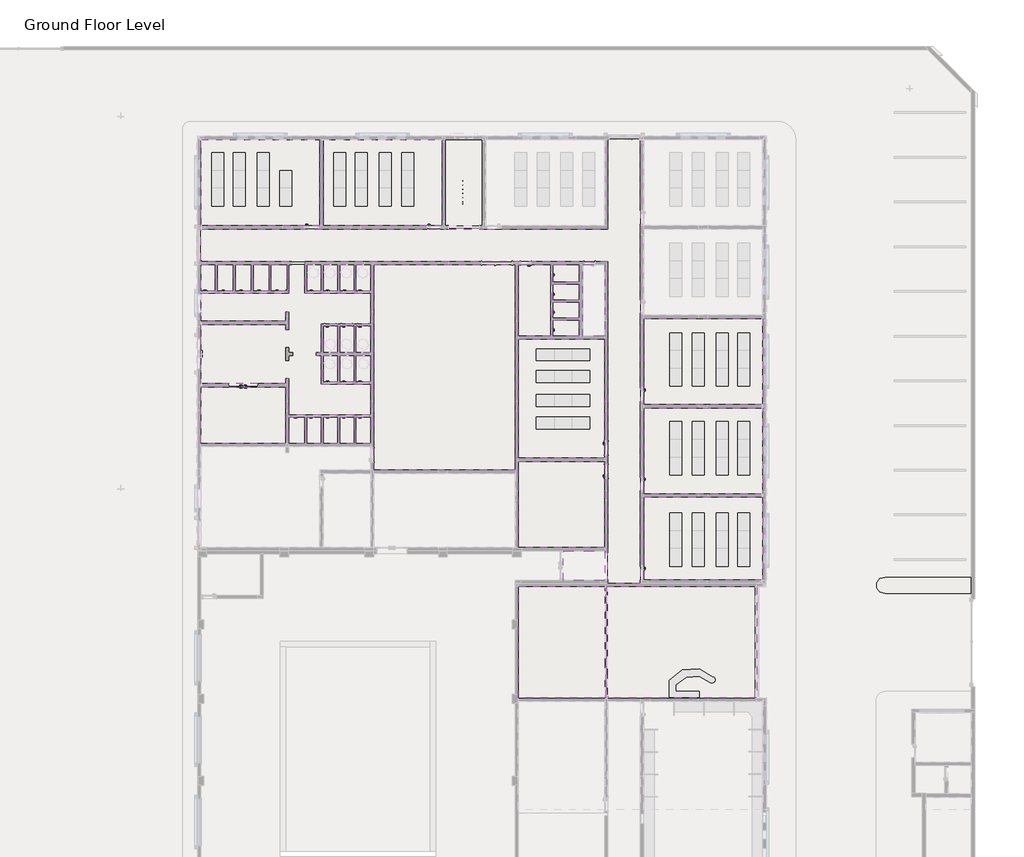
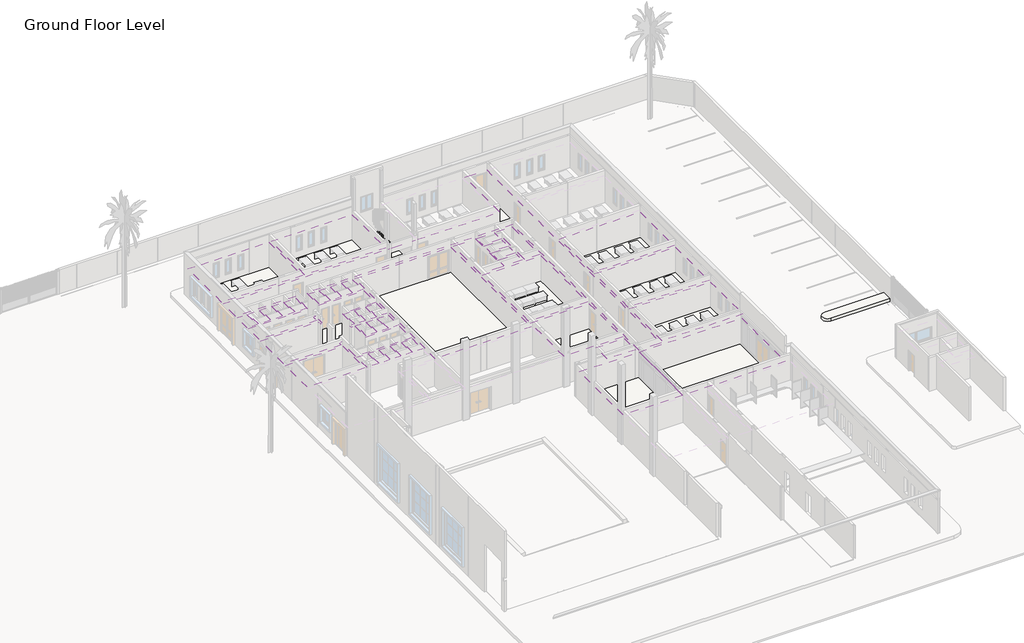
# One storey, part 12 of 23: 39 coverings, 14 slabs.
"""IFC4 building model written with IfcOpenShell, lengths in millimetres."""

import ifcopenshell
import ifcopenshell.guid

model = None  # the IFC model being written
_history = None  # IfcOwnerHistory: only IFC2X3 demands one
_inside = {}  # id of a spatial element -> (the spatial element, [elements in it])
_under = {}  # id of a project, library or spatial element -> (it, [spatial elements below it])
_declared = {}  # id of a project -> (the project, [libraries it declares])
_typed = {}  # id of a type object -> (the type object, [elements of that type])
_made_of = {}  # id of a material, layer set ... -> (it, [elements and type objects made of it])


def new_model(schema):
    """Start an empty IFC model of exactly this schema.

    Asked for "IFC4X3", IfcOpenShell would pick the latest addendum, in which some entities
    have other attributes; the version numbers below select the first issue.
    IFC2X3 requires an IfcOwnerHistory on every rooted entity: one is made here for all.
    """
    global model, _history
    if schema == "IFC4X3":
        model = ifcopenshell.file(schema_version=(4, 3, 0, 0))
    else:
        model = ifcopenshell.file(schema=schema)
    _inside.clear()
    _under.clear()
    _declared.clear()
    _typed.clear()
    _made_of.clear()
    _history = None
    if model.schema == "IFC2X3":
        org = make("IfcOrganization", Name="unknown")
        user = make(
            "IfcPersonAndOrganization",
            ThePerson=make("IfcPerson", FamilyName="unknown"),
            TheOrganization=org,
        )
        app = make(
            "IfcApplication",
            ApplicationDeveloper=org,
            Version="unknown",
            ApplicationFullName="unknown",
            ApplicationIdentifier="unknown",
        )
        _history = make(
            "IfcOwnerHistory",
            OwningUser=user,
            OwningApplication=app,
            ChangeAction="ADDED",
            CreationDate=0,
        )
    return model


def make(cls, **values):
    """One entity of the class cls with the attributes given. An attribute that is None is left unset."""
    return model.create_entity(
        cls, **{name: value for name, value in values.items() if value is not None}
    )


def rooted(cls, **values):
    """An entity with a GlobalId (a new one), such as an element, a storey or a relation."""
    return make(cls, GlobalId=ifcopenshell.guid.new(), OwnerHistory=_history, **values)


def si_unit(unit_type, name, prefix=None):
    """IfcSIUnit, for example si_unit("LENGTHUNIT", "METRE", prefix="MILLI")."""
    return make("IfcSIUnit", UnitType=unit_type, Prefix=prefix, Name=name)


def assignment(units):
    """IfcUnitAssignment: the units of a project."""
    return None if units is None else make("IfcUnitAssignment", Units=units)


def point(xyz):
    """IfcCartesianPoint."""
    return None if xyz is None else make("IfcCartesianPoint", Coordinates=xyz)


def direction(xyz):
    """IfcDirection."""
    return None if xyz is None else make("IfcDirection", DirectionRatios=xyz)


def frame(location, z_axis=None, x_axis=None):
    """IfcAxis2Placement3D, a coordinate frame: its origin and axes. An axis left out is left unset."""
    return make(
        "IfcAxis2Placement3D",
        Location=point(location),
        Axis=direction(z_axis),
        RefDirection=direction(x_axis),
    )


def frame_2d(location, x_axis=None):
    """IfcAxis2Placement2D, a coordinate frame in the plane: its origin and x axis."""
    return make(
        "IfcAxis2Placement2D", Location=point(location), RefDirection=direction(x_axis)
    )


def origin():
    """The frame at (0, 0, 0) with its axes left unset."""
    return frame((0.0, 0.0, 0.0))


def place(relative_to, where):
    """IfcLocalPlacement: puts the frame where relative to a parent placement (None: the world)."""
    return make(
        "IfcLocalPlacement", PlacementRelTo=relative_to, RelativePlacement=where
    )


def context(
    kind, dimensions, precision=None, world=None, true_north=None, identifier=None
):
    """IfcGeometricRepresentationContext, for example the 3D "Model" context."""
    return make(
        "IfcGeometricRepresentationContext",
        ContextIdentifier=identifier,
        ContextType=kind,
        CoordinateSpaceDimension=dimensions,
        Precision=precision,
        WorldCoordinateSystem=world,
        TrueNorth=true_north,
    )


def project(units=None, contexts=None):
    """IfcProject with its units and contexts."""
    return rooted(
        "IfcProject",
        Name="project",
        RepresentationContexts=contexts,
        UnitsInContext=assignment(units),
    )


def spatial(cls, under=None, at=None, **own):
    """A site, building, storey or space (cls), placed at a placement, below another one or the project."""
    s = rooted(cls, ObjectPlacement=at, **own)
    if under is not None:
        _under.setdefault(under.id(), (under, []))[1].append(s)
    return s


def polyline(points):
    """IfcPolyline through the points."""
    return make("IfcPolyline", Points=[point(p) for p in points])


def circle_curve(where, radius):
    """IfcCircle in the frame where."""
    return make("IfcCircle", Position=where, Radius=radius)


def trimmed(basis, trim1, trim2, sense, master):
    """IfcTrimmedCurve: the piece of a basis curve between two trims."""
    return make(
        "IfcTrimmedCurve",
        BasisCurve=basis,
        Trim1=trim1,
        Trim2=trim2,
        SenseAgreement=sense,
        MasterRepresentation=master,
    )


def segment(curve, same_sense, transition):
    """IfcCompositeCurveSegment."""
    return make(
        "IfcCompositeCurveSegment",
        Transition=transition,
        SameSense=same_sense,
        ParentCurve=curve,
    )


def composite_curve(segments, self_intersect=None):
    """IfcCompositeCurve: segments joined end to end."""
    return make("IfcCompositeCurve", Segments=segments, SelfIntersect=self_intersect)


def outline(outer, holes=None, kind="AREA"):
    """IfcArbitraryClosedProfileDef: a profile drawn as a closed curve; with holes, ...WithVoids."""
    if holes is None:
        return make("IfcArbitraryClosedProfileDef", ProfileType=kind, OuterCurve=outer)
    return make(
        "IfcArbitraryProfileDefWithVoids",
        ProfileType=kind,
        OuterCurve=outer,
        InnerCurves=holes,
    )


def extrude(swept, where, along, depth):
    """IfcExtrudedAreaSolid: the profile swept, set in the frame where, extruded along a direction by depth."""
    return make(
        "IfcExtrudedAreaSolid",
        SweptArea=swept,
        Position=where,
        ExtrudedDirection=direction(along),
        Depth=depth,
    )


def faces_of(points, faces, orient=None, outer=None):
    """IfcFace entities. A face is a list of loops; a loop is a list of indices into points, from 0.

    orient and outer hold one flag for each loop. By default every Orientation is true, the
    first loop of a face is its IfcFaceOuterBound and the others are IfcFaceBound.
    """
    made = []
    for i, loops in enumerate(faces):
        bounds = []
        for j, loop in enumerate(loops):
            is_outer = j == 0 if outer is None else outer[i][j]
            bounds.append(
                make(
                    "IfcFaceOuterBound" if is_outer else "IfcFaceBound",
                    Bound=make("IfcPolyLoop", Polygon=[points[k] for k in loop]),
                    Orientation=True if orient is None else orient[i][j],
                )
            )
        made.append(make("IfcFace", Bounds=bounds))
    return made


def faceted_brep(points, faces, orient=None, outer=None, voids=None):
    """IfcFacetedBrep: a solid bounded by flat faces; with voids (closed shells), ...WithVoids."""
    shared = [point(p) for p in points]
    hull = make("IfcClosedShell", CfsFaces=faces_of(shared, faces, orient, outer))
    if voids is None:
        return make("IfcFacetedBrep", Outer=hull)
    return make(
        "IfcFacetedBrepWithVoids",
        Outer=hull,
        Voids=[
            make(cls, CfsFaces=faces_of(shared, fs, o, b)) for cls, fs, o, b in voids
        ],
    )


def shape(context_of_items, identifier, shape_type, items):
    """IfcShapeRepresentation: the items that make up one representation, for example the "Body"."""
    return make(
        "IfcShapeRepresentation",
        ContextOfItems=context_of_items,
        RepresentationIdentifier=identifier,
        RepresentationType=shape_type,
        Items=items,
    )


def made_of(thing, what):
    """Note that an element or type object is made of a material, layer set ...; save() writes the relation."""
    if what is not None:
        _made_of.setdefault(what.id(), (what, []))[1].append(thing)
    return thing


def element(
    cls,
    number,
    at=None,
    inside=None,
    cuts=None,
    type_object=None,
    material=None,
    context=None,
    identifier="Body",
    shape_type=None,
    held_by="IfcProductDefinitionShape",
    body=None,
    shapes=None,
    **own,
):
    """One element of the class cls, such as IfcWall. Its Tag is "e" and its number.

    at: its placement. inside: the storey or other place that contains it. cuts: it is an
    opening in that element (IfcRelVoidsElement). A single representation is given by context,
    identifier, shape_type and body (its items); several are given by shapes. held_by: the class
    of the entity that holds the representations. save() writes the other relations.
    """
    e = rooted(cls, Tag="e%d" % number, ObjectPlacement=at, **own)
    if body is not None:
        shapes = [shape(context, identifier, shape_type, body)]
    if shapes is not None:
        e.Representation = make(held_by, Representations=shapes)
    if inside is not None:
        _inside.setdefault(inside.id(), (inside, []))[1].append(e)
    if cuts is not None:
        rooted(
            "IfcRelVoidsElement", RelatingBuildingElement=cuts, RelatedOpeningElement=e
        )
    if type_object is not None:
        _typed.setdefault(type_object.id(), (type_object, []))[1].append(e)
    return made_of(e, material)


def aggregate(whole, parts):
    """IfcRelAggregates: a whole, such as a stair, and the parts it consists of."""
    return rooted("IfcRelAggregates", RelatingObject=whole, RelatedObjects=parts)


def save(model, path):
    """Write the relations noted so far, then the file.

    IfcRelAggregates (storeys below a building ...), IfcRelContainedInSpatialStructure (elements
    in a storey), IfcRelDefinesByType, IfcRelAssociatesMaterial and IfcRelDeclares: one each for
    every whole, place, type object, material and project.
    """
    for whole, parts in _under.values():
        aggregate(whole, parts)
    for where, things in _inside.values():
        rooted(
            "IfcRelContainedInSpatialStructure",
            RelatedElements=things,
            RelatingStructure=where,
        )
    for kind, things in _typed.values():
        rooted("IfcRelDefinesByType", RelatedObjects=things, RelatingType=kind)
    for what, things in _made_of.values():
        rooted("IfcRelAssociatesMaterial", RelatedObjects=things, RelatingMaterial=what)
    for by, libraries in _declared.values():
        rooted("IfcRelDeclares", RelatingContext=by, RelatedDefinitions=libraries)
    model.write(path)


model = new_model("IFC4")

# Units and contexts
model_context = context("Model", 3, world=origin())
ifc_project = project(units=[si_unit("LENGTHUNIT", "METRE", prefix="MILLI")], contexts=[model_context])

# Site, building, storey
site = spatial("IfcSite", under=ifc_project)
building = spatial("IfcBuilding", under=site)
storey = spatial("IfcBuildingStorey", under=building, Name="Ground Floor Level", Elevation=900.0)

# Coverings
placement = place(None, origin())
element("IfcCovering", 1, ObjectType="600 x 1200mm Grid", at=placement, inside=storey, context=model_context, shape_type="SweptSolid", body=[
    extrude(outline(polyline([(-10237.2327605, -744.7846466), (-10237.2327605, 13035.2153534), (-757.2327605, 13035.2153534), (-757.2327605, -744.7846466), (-10237.2327605, -744.7846466)])), frame((0.0, 0.0, 3650.0), z_axis=(0.0, 0.0, 1.0), x_axis=(1.0, 0.0, 0.0)), (0.0, 0.0, 1.0), 52.0),
])
element("IfcCovering", 2, ObjectType="600 x 600mm Grid", at=placement, inside=storey, context=model_context, shape_type="SweptSolid", body=[
    extrude(outline(polyline([(-13857.2327605, 21435.2153534), (-13857.2327605, 15655.2153534), (-21837.2327605, 15655.2153534), (-21837.2327605, 21435.2153534), (-13857.2327605, 21435.2153534)])), frame((0.0, 0.0, 3650.0), z_axis=(0.0, 0.0, 1.0), x_axis=(1.0, 0.0, 0.0)), (0.0, 0.0, 1.0), 52.0),
])
element("IfcCovering", 3, ObjectType="600 x 600mm Grid", at=placement, inside=storey, context=model_context, shape_type="SweptSolid", body=[
    extrude(outline(polyline([(-5657.2327605, 21435.2153534), (-5657.2327605, 15655.2153534), (-13637.2327605, 15655.2153534), (-13637.2327605, 21435.2153534), (-5657.2327605, 21435.2153534)])), frame((0.0, 0.0, 3650.0), z_axis=(0.0, 0.0, 1.0), x_axis=(1.0, 0.0, 0.0)), (0.0, 0.0, 1.0), 52.0),
])
element("IfcCovering", 4, ObjectType="600 x 600mm Grid", at=placement, inside=storey, context=model_context, shape_type="SweptSolid", body=[
    extrude(outline(polyline([(7862.7672395, 3645.2153534), (7862.7672395, 9435.2153534), (15842.7672395, 9435.2153534), (15842.7672395, 3645.2153534), (7862.7672395, 3645.2153534)])), frame((0.0, 0.0, 3650.0), z_axis=(0.0, 0.0, 1.0), x_axis=(1.0, 0.0, 0.0)), (0.0, 0.0, 1.0), 52.0),
])
element("IfcCovering", 5, ObjectType="600 x 600mm Grid", at=placement, inside=storey, context=model_context, shape_type="SweptSolid", body=[
    extrude(outline(polyline([(7862.7672395, -2344.7846466), (7862.7672395, 3425.2153534), (15842.7672395, 3425.2153534), (15842.7672395, -2344.7846466), (7862.7672395, -2344.7846466)])), frame((0.0, 0.0, 3650.0), z_axis=(0.0, 0.0, 1.0), x_axis=(1.0, 0.0, 0.0)), (0.0, 0.0, 1.0), 52.0),
])
element("IfcCovering", 6, ObjectType="600 x 600mm Grid", at=placement, inside=storey, context=model_context, shape_type="SweptSolid", body=[
    extrude(outline(polyline([(7862.7672395, -8124.7846466), (7862.7672395, -2564.7846466), (15842.7672395, -2564.7846466), (15842.7672395, -8124.7846466), (7862.7672395, -8124.7846466)])), frame((0.0, 0.0, 3650.0), z_axis=(0.0, 0.0, 1.0), x_axis=(1.0, 0.0, 0.0)), (0.0, 0.0, 1.0), 52.0),
])
element("IfcCovering", 7, ObjectType="600 x 600mm Grid", at=placement, inside=storey, context=model_context, shape_type="SweptSolid", body=[
    extrude(outline(polyline([(5242.7672395, 8035.2153534), (5242.7672395, 55.2153534), (-537.2327605, 55.2153534), (-537.2327605, 8035.2153534), (5242.7672395, 8035.2153534)])), frame((0.0, 0.0, 3650.0), z_axis=(0.0, 0.0, 1.0), x_axis=(1.0, 0.0, 0.0)), (0.0, 0.0, 1.0), 52.0),
])
element("IfcCovering", 8, ObjectType="600 x 600mm Grid", at=placement, inside=storey, context=model_context, shape_type="SweptSolid", body=[
    extrude(outline(polyline([(-537.2327605, -164.7846466), (5242.7672395, -164.7846466), (5242.7672395, -5944.7846466), (-537.2327605, -5944.7846466), (-537.2327605, -164.7846466)])), frame((0.0, 0.0, 3650.0), z_axis=(0.0, 0.0, 1.0), x_axis=(1.0, 0.0, 0.0)), (0.0, 0.0, 1.0), 52.0),
])
element("IfcCovering", 9, ObjectType="600 x 600mm Grid", at=placement, inside=storey, context=model_context, shape_type="SweptSolid", body=[
    extrude(outline(polyline([(15452.7672395, -16044.7846466), (5352.7672395, -16044.7846466), (5352.7672395, -8564.7846466), (15452.7672395, -8564.7846466), (15452.7672395, -16044.7846466)])), frame((0.0, 0.0, 3650.0), z_axis=(0.0, 0.0, 1.0), x_axis=(1.0, 0.0, 0.0)), (0.0, 0.0, 1.0), 52.0),
])
element("IfcCovering", 10, ObjectType="600 x 600mm Grid", at=placement, inside=storey, context=model_context, shape_type="SweptSolid", body=[
    extrude(outline(polyline([(5352.7672395, -16044.7846466), (-537.2327605, -16044.7846466), (-537.2327605, -8564.7846466), (5352.7672395, -8564.7846466), (5352.7672395, -16044.7846466)])), frame((0.0, 0.0, 3650.0), z_axis=(0.0, 0.0, 1.0), x_axis=(1.0, 0.0, 0.0)), (0.0, 0.0, 1.0), 52.0),
])
element("IfcCovering", 11, ObjectType="Plain", at=placement, inside=storey, context=model_context, shape_type="SweptSolid", body=[
    extrude(outline(polyline([(-21837.2327605, 15435.2153534), (-5547.2327605, 15435.2153534), (-5227.2327605, 15435.2153534), (-3157.2327605, 15435.2153534), (-2637.2327605, 15435.2153534), (5462.7672395, 15435.2153534), (5462.7672395, 21435.2153534), (7642.7672395, 21435.2153534), (7642.7672395, -8344.7846466), (5462.7672395, -8344.7846466), (5462.7672395, 13255.2153534), (-14857.2327605, 13255.2153534), (-14857.2327605, 11135.2153534), (-10457.2327605, 11135.2153534), (-10457.2327605, 9055.2153534), (-13757.2327605, 9055.2153534), (-13757.2327605, 7155.2153534), (-14101.3641497, 7155.2153534), (-14101.3641497, 6935.2153534), (-13757.2327605, 6935.2153534), (-13757.2327605, 5035.2153534), (-10457.2327605, 5035.2153534), (-10457.2327605, 2945.2153534), (-15937.2327605, 2945.2153534), (-15937.2327605, 5390.2153534), (-16157.2327605, 5390.2153534), (-16157.2327605, 5055.2153534), (-21837.2327605, 5055.2153534), (-21837.2327605, 9035.2153534), (-16157.2327605, 9035.2153534), (-16157.2327605, 8700.2153534), (-15937.2327605, 8700.2153534), (-15937.2327605, 9845.2153534), (-16157.2327605, 9845.2153534), (-16157.2327605, 9255.2153534), (-21837.2327605, 9255.2153534), (-21837.2327605, 11135.2153534), (-15937.2327605, 11135.2153534), (-15937.2327605, 13255.2153534), (-21837.2327605, 13255.2153534), (-21837.2327605, 15435.2153534)]), holes=[polyline([(-15661.6177827, 7155.2153534), (-15937.2327605, 7155.2153534), (-15937.2327605, 7490.2153534), (-16157.2327605, 7490.2153534), (-16157.2327605, 6600.2153534), (-15937.2327605, 6600.2153534), (-15937.2327605, 6935.2153534), (-15661.6177827, 6935.2153534), (-15661.6177827, 7155.2153534)])]), frame((0.0, 0.0, 3650.0), z_axis=(0.0, 0.0, 1.0), x_axis=(1.0, 0.0, 0.0)), (0.0, 0.0, 1.0), 57.0),
])
element("IfcCovering", 12, ObjectType="Plain", at=placement, inside=storey, context=model_context, shape_type="SweptSolid", body=[
    extrude(outline(polyline([(-21837.2327605, 13035.2153534), (-20857.2327605, 13035.2153534), (-20857.2327605, 11255.2153534), (-21837.2327605, 11255.2153534), (-21837.2327605, 13035.2153534)])), frame((0.0, 0.0, 3650.0), z_axis=(0.0, 0.0, 1.0), x_axis=(1.0, 0.0, 0.0)), (0.0, 0.0, 1.0), 57.0),
])
element("IfcCovering", 13, ObjectType="Plain", at=placement, inside=storey, context=model_context, shape_type="SweptSolid", body=[
    extrude(outline(polyline([(-20737.2327605, 13035.2153534), (-19657.2327605, 13035.2153534), (-19657.2327605, 11255.2153534), (-20737.2327605, 11255.2153534), (-20737.2327605, 13035.2153534)])), frame((0.0, 0.0, 3650.0), z_axis=(0.0, 0.0, 1.0), x_axis=(1.0, 0.0, 0.0)), (0.0, 0.0, 1.0), 57.0),
])
element("IfcCovering", 14, ObjectType="Plain", at=placement, inside=storey, context=model_context, shape_type="SweptSolid", body=[
    extrude(outline(polyline([(-19537.2327605, 13035.2153534), (-18457.2327605, 13035.2153534), (-18457.2327605, 11255.2153534), (-19537.2327605, 11255.2153534), (-19537.2327605, 13035.2153534)])), frame((0.0, 0.0, 3650.0), z_axis=(0.0, 0.0, 1.0), x_axis=(1.0, 0.0, 0.0)), (0.0, 0.0, 1.0), 57.0),
])
element("IfcCovering", 15, ObjectType="Plain", at=placement, inside=storey, context=model_context, shape_type="SweptSolid", body=[
    extrude(outline(polyline([(-18337.2327605, 13035.2153534), (-17257.2327605, 13035.2153534), (-17257.2327605, 11255.2153534), (-18337.2327605, 11255.2153534), (-18337.2327605, 13035.2153534)])), frame((0.0, 0.0, 3650.0), z_axis=(0.0, 0.0, 1.0), x_axis=(1.0, 0.0, 0.0)), (0.0, 0.0, 1.0), 57.0),
])
element("IfcCovering", 16, ObjectType="Plain", at=placement, inside=storey, context=model_context, shape_type="SweptSolid", body=[
    extrude(outline(polyline([(-17137.2327605, 13035.2153534), (-16057.2327605, 13035.2153534), (-16057.2327605, 11255.2153534), (-17137.2327605, 11255.2153534), (-17137.2327605, 13035.2153534)])), frame((0.0, 0.0, 3650.0), z_axis=(0.0, 0.0, 1.0), x_axis=(1.0, 0.0, 0.0)), (0.0, 0.0, 1.0), 57.0),
])
element("IfcCovering", 17, ObjectType="Plain", at=placement, inside=storey, context=model_context, shape_type="SweptSolid", body=[
    extrude(outline(polyline([(-14737.2327605, 13035.2153534), (-13757.2327605, 13035.2153534), (-13757.2327605, 11255.2153534), (-14737.2327605, 11255.2153534), (-14737.2327605, 13035.2153534)])), frame((0.0, 0.0, 3650.0), z_axis=(0.0, 0.0, 1.0), x_axis=(1.0, 0.0, 0.0)), (0.0, 0.0, 1.0), 57.0),
])
element("IfcCovering", 18, ObjectType="Plain", at=placement, inside=storey, context=model_context, shape_type="SweptSolid", body=[
    extrude(outline(polyline([(-13637.2327605, 13035.2153534), (-12657.2327605, 13035.2153534), (-12657.2327605, 11255.2153534), (-13637.2327605, 11255.2153534), (-13637.2327605, 13035.2153534)])), frame((0.0, 0.0, 3650.0), z_axis=(0.0, 0.0, 1.0), x_axis=(1.0, 0.0, 0.0)), (0.0, 0.0, 1.0), 57.0),
])
element("IfcCovering", 19, ObjectType="Plain", at=placement, inside=storey, context=model_context, shape_type="SweptSolid", body=[
    extrude(outline(polyline([(-12537.2327605, 13035.2153534), (-11557.2327605, 13035.2153534), (-11557.2327605, 11255.2153534), (-12537.2327605, 11255.2153534), (-12537.2327605, 13035.2153534)])), frame((0.0, 0.0, 3650.0), z_axis=(0.0, 0.0, 1.0), x_axis=(1.0, 0.0, 0.0)), (0.0, 0.0, 1.0), 57.0),
])
element("IfcCovering", 20, ObjectType="Plain", at=placement, inside=storey, context=model_context, shape_type="SweptSolid", body=[
    extrude(outline(polyline([(-11437.2327605, 13035.2153534), (-10457.2327605, 13035.2153534), (-10457.2327605, 11255.2153534), (-11437.2327605, 11255.2153534), (-11437.2327605, 13035.2153534)])), frame((0.0, 0.0, 3650.0), z_axis=(0.0, 0.0, 1.0), x_axis=(1.0, 0.0, 0.0)), (0.0, 0.0, 1.0), 57.0),
])
element("IfcCovering", 21, ObjectType="Plain", at=placement, inside=storey, context=model_context, shape_type="SweptSolid", body=[
    extrude(outline(polyline([(-10457.2327605, 8935.2153534), (-10457.2327605, 7155.2153534), (-11437.2327605, 7155.2153534), (-11437.2327605, 8935.2153534), (-10457.2327605, 8935.2153534)])), frame((0.0, 0.0, 3650.0), z_axis=(0.0, 0.0, 1.0), x_axis=(1.0, 0.0, 0.0)), (0.0, 0.0, 1.0), 57.0),
])
element("IfcCovering", 22, ObjectType="Plain", at=placement, inside=storey, context=model_context, shape_type="SweptSolid", body=[
    extrude(outline(polyline([(-11557.2327605, 8935.2153534), (-11557.2327605, 7155.2153534), (-12537.2327605, 7155.2153534), (-12537.2327605, 8935.2153534), (-11557.2327605, 8935.2153534)])), frame((0.0, 0.0, 3650.0), z_axis=(0.0, 0.0, 1.0), x_axis=(1.0, 0.0, 0.0)), (0.0, 0.0, 1.0), 57.0),
])
element("IfcCovering", 23, ObjectType="Plain", at=placement, inside=storey, context=model_context, shape_type="SweptSolid", body=[
    extrude(outline(polyline([(-12657.2327605, 8935.2153534), (-12657.2327605, 7155.2153534), (-13637.2327605, 7155.2153534), (-13637.2327605, 8935.2153534), (-12657.2327605, 8935.2153534)])), frame((0.0, 0.0, 3650.0), z_axis=(0.0, 0.0, 1.0), x_axis=(1.0, 0.0, 0.0)), (0.0, 0.0, 1.0), 57.0),
])
element("IfcCovering", 24, ObjectType="Plain", at=placement, inside=storey, context=model_context, shape_type="SweptSolid", body=[
    extrude(outline(polyline([(-13637.2327605, 6935.2153534), (-12657.2327605, 6935.2153534), (-12657.2327605, 5155.2153534), (-13637.2327605, 5155.2153534), (-13637.2327605, 6935.2153534)])), frame((0.0, 0.0, 3650.0), z_axis=(0.0, 0.0, 1.0), x_axis=(1.0, 0.0, 0.0)), (0.0, 0.0, 1.0), 57.0),
])
element("IfcCovering", 25, ObjectType="Plain", at=placement, inside=storey, context=model_context, shape_type="SweptSolid", body=[
    extrude(outline(polyline([(-12537.2327605, 6935.2153534), (-11557.2327605, 6935.2153534), (-11557.2327605, 5155.2153534), (-12537.2327605, 5155.2153534), (-12537.2327605, 6935.2153534)])), frame((0.0, 0.0, 3650.0), z_axis=(0.0, 0.0, 1.0), x_axis=(1.0, 0.0, 0.0)), (0.0, 0.0, 1.0), 57.0),
])
element("IfcCovering", 26, ObjectType="Plain", at=placement, inside=storey, context=model_context, shape_type="SweptSolid", body=[
    extrude(outline(polyline([(-10457.2327605, 6935.2153534), (-10457.2327605, 5155.2153534), (-11437.2327605, 5155.2153534), (-11437.2327605, 6935.2153534), (-10457.2327605, 6935.2153534)])), frame((0.0, 0.0, 3650.0), z_axis=(0.0, 0.0, 1.0), x_axis=(1.0, 0.0, 0.0)), (0.0, 0.0, 1.0), 57.0),
])
element("IfcCovering", 27, ObjectType="Plain", at=placement, inside=storey, context=model_context, shape_type="SweptSolid", body=[
    extrude(outline(polyline([(-21837.2327605, 4835.2153534), (-16157.2327605, 4835.2153534), (-16157.2327605, 1055.2153534), (-21837.2327605, 1055.2153534), (-21837.2327605, 4835.2153534)])), frame((0.0, 0.0, 3650.0), z_axis=(0.0, 0.0, 1.0), x_axis=(1.0, 0.0, 0.0)), (0.0, 0.0, 1.0), 57.0),
])
element("IfcCovering", 28, ObjectType="Plain", at=placement, inside=storey, context=model_context, shape_type="SweptSolid", body=[
    extrude(outline(polyline([(-14857.2327605, 1055.2153534), (-15937.2327605, 1055.2153534), (-15937.2327605, 2825.2153534), (-14857.2327605, 2825.2153534), (-14857.2327605, 1055.2153534)])), frame((0.0, 0.0, 3650.0), z_axis=(0.0, 0.0, 1.0), x_axis=(1.0, 0.0, 0.0)), (0.0, 0.0, 1.0), 57.0),
])
element("IfcCovering", 29, ObjectType="Plain", at=placement, inside=storey, context=model_context, shape_type="SweptSolid", body=[
    extrude(outline(polyline([(-13757.2327605, 2825.2153534), (-13757.2327605, 1055.2153534), (-14737.2327605, 1055.2153534), (-14737.2327605, 2825.2153534), (-13757.2327605, 2825.2153534)])), frame((0.0, 0.0, 3650.0), z_axis=(0.0, 0.0, 1.0), x_axis=(1.0, 0.0, 0.0)), (0.0, 0.0, 1.0), 57.0),
])
element("IfcCovering", 30, ObjectType="Plain", at=placement, inside=storey, context=model_context, shape_type="SweptSolid", body=[
    extrude(outline(polyline([(-12657.2327605, 2825.2153534), (-12657.2327605, 1055.2153534), (-13637.2327605, 1055.2153534), (-13637.2327605, 2825.2153534), (-12657.2327605, 2825.2153534)])), frame((0.0, 0.0, 3650.0), z_axis=(0.0, 0.0, 1.0), x_axis=(1.0, 0.0, 0.0)), (0.0, 0.0, 1.0), 57.0),
])
element("IfcCovering", 31, ObjectType="Plain", at=placement, inside=storey, context=model_context, shape_type="SweptSolid", body=[
    extrude(outline(polyline([(-11557.2327605, 2825.2153534), (-11557.2327605, 1055.2153534), (-12537.2327605, 1055.2153534), (-12537.2327605, 2825.2153534), (-11557.2327605, 2825.2153534)])), frame((0.0, 0.0, 3650.0), z_axis=(0.0, 0.0, 1.0), x_axis=(1.0, 0.0, 0.0)), (0.0, 0.0, 1.0), 57.0),
])
element("IfcCovering", 32, ObjectType="Plain", at=placement, inside=storey, context=model_context, shape_type="SweptSolid", body=[
    extrude(outline(polyline([(-10457.2327605, 1055.2153534), (-11437.2327605, 1055.2153534), (-11437.2327605, 2825.2153534), (-10457.2327605, 2825.2153534), (-10457.2327605, 1055.2153534)])), frame((0.0, 0.0, 3650.0), z_axis=(0.0, 0.0, 1.0), x_axis=(1.0, 0.0, 0.0)), (0.0, 0.0, 1.0), 57.0),
])
element("IfcCovering", 33, ObjectType="Plain", at=placement, inside=storey, context=model_context, shape_type="SweptSolid", body=[
    extrude(outline(polyline([(-537.2327605, 8255.2153534), (-537.2327605, 13035.2153534), (1642.7672395, 13035.2153534), (1642.7672395, 8255.2153534), (-537.2327605, 8255.2153534)])), frame((0.0, 0.0, 3650.0), z_axis=(0.0, 0.0, 1.0), x_axis=(1.0, 0.0, 0.0)), (0.0, 0.0, 1.0), 57.0),
])
element("IfcCovering", 34, ObjectType="Plain", at=placement, inside=storey, context=model_context, shape_type="SweptSolid", body=[
    extrude(outline(polyline([(3542.7672395, 11735.2153534), (3542.7672395, 10645.2153534), (1762.7672395, 10645.2153534), (1762.7672395, 11735.2153534), (3542.7672395, 11735.2153534)])), frame((0.0, 0.0, 3650.0), z_axis=(0.0, 0.0, 1.0), x_axis=(1.0, 0.0, 0.0)), (0.0, 0.0, 1.0), 57.0),
])
element("IfcCovering", 35, ObjectType="Plain", at=placement, inside=storey, context=model_context, shape_type="SweptSolid", body=[
    extrude(outline(polyline([(1762.7672395, 13035.2153534), (3542.7672395, 13035.2153534), (3542.7672395, 11855.2153534), (1762.7672395, 11855.2153534), (1762.7672395, 13035.2153534)])), frame((0.0, 0.0, 3650.0), z_axis=(0.0, 0.0, 1.0), x_axis=(1.0, 0.0, 0.0)), (0.0, 0.0, 1.0), 57.0),
])
element("IfcCovering", 36, ObjectType="Plain", at=placement, inside=storey, context=model_context, shape_type="SweptSolid", body=[
    extrude(outline(polyline([(3542.7672395, 10525.2153534), (3542.7672395, 9455.2153534), (1762.7672395, 9455.2153534), (1762.7672395, 10525.2153534), (3542.7672395, 10525.2153534)])), frame((0.0, 0.0, 3650.0), z_axis=(0.0, 0.0, 1.0), x_axis=(1.0, 0.0, 0.0)), (0.0, 0.0, 1.0), 57.0),
])
element("IfcCovering", 37, ObjectType="Plain", at=placement, inside=storey, context=model_context, shape_type="SweptSolid", body=[
    extrude(outline(polyline([(3542.7672395, 9335.2153534), (3542.7672395, 8255.2153534), (1762.7672395, 8255.2153534), (1762.7672395, 9335.2153534), (3542.7672395, 9335.2153534)])), frame((0.0, 0.0, 3650.0), z_axis=(0.0, 0.0, 1.0), x_axis=(1.0, 0.0, 0.0)), (0.0, 0.0, 1.0), 57.0),
])
element("IfcCovering", 38, ObjectType="Plain", at=placement, inside=storey, context=model_context, shape_type="SweptSolid", body=[
    extrude(outline(polyline([(3762.7672395, 8255.2153534), (3762.7672395, 13035.2153534), (5242.7672395, 13035.2153534), (5242.7672395, 8255.2153534), (3762.7672395, 8255.2153534)])), frame((0.0, 0.0, 3650.0), z_axis=(0.0, 0.0, 1.0), x_axis=(1.0, 0.0, 0.0)), (0.0, 0.0, 1.0), 57.0),
])
element("IfcCovering", 39, ObjectType="Plain", at=placement, inside=storey, context=model_context, shape_type="SweptSolid", body=[
    extrude(outline(polyline([(5242.7672395, -6164.7846466), (5242.7672395, -8134.7846466), (2472.7672395, -8134.7846466), (2472.7672395, -6164.7846466), (5242.7672395, -6164.7846466)])), frame((0.0, 0.0, 3650.0), z_axis=(0.0, 0.0, 1.0), x_axis=(1.0, 0.0, 0.0)), (0.0, 0.0, 1.0), 57.0),
])

# Slabs
element("IfcSlab", 40, ObjectType="Ceramic Tile Floor 30x30", at=placement, inside=storey, context=model_context, shape_type="Brep", body=[
    faceted_brep([(3542.7672395, 13045.2153534, 900.0), (3542.7672395, 8255.2153534, 900.0), (3542.7672395, 8245.2153534, 900.0), (-537.2327605, 8245.2153534, 900.0), (-547.2327605, 8245.2153534, 900.0), (-547.2327605, 9245.2153534, 900.0), (-547.2327605, 9845.2153534, 900.0), (-547.2327605, 13035.2153534, 900.0), (-547.2327605, 13045.2153534, 900.0), (3542.7672395, 13045.2153534, 1000.0), (-547.2327605, 13045.2153534, 1000.0), (-547.2327605, 13035.2153534, 1000.0), (-547.2327605, 9845.2153534, 1000.0), (-547.2327605, 9245.2153534, 1000.0), (-547.2327605, 8245.2153534, 1000.0), (-537.2327605, 8245.2153534, 1000.0), (3542.7672395, 8245.2153534, 1000.0), (3542.7672395, 8255.2153534, 1000.0)], [[[0, 1, 2, 3, 4, 5, 6, 7, 8]], [[9, 10, 11, 12, 13, 14, 15, 16, 17]], [[2, 1, 0, 9, 17, 16]], [[4, 3, 2, 16, 15, 14]], [[8, 7, 6, 5, 4, 14, 13, 12, 11, 10]], [[0, 8, 10, 9]]]),
])
element("IfcSlab", 41, ObjectType="Ceramic Tile Floor 30x30", at=placement, inside=storey, context=model_context, shape_type="Brep", body=[
    faceted_brep([(-10447.2327605, 13045.2153534, 900.0), (-10447.2327605, 13035.2153534, 900.0), (-10447.2327605, 9845.2153534, 900.0), (-10447.2327605, 9245.2153534, 900.0), (-10447.2327605, 3845.2153534, 900.0), (-10447.2327605, 3245.2153534, 900.0), (-10447.2327605, 845.2153534, 900.0), (-10457.2327605, 845.2153534, 900.0), (-21847.2327605, 845.2153534, 900.0), (-21847.2327605, 3295.2153534, 900.0), (-21847.2327605, 3795.2153534, 900.0), (-21847.2327605, 8895.2153534, 900.0), (-21847.2327605, 9395.2153534, 900.0), (-21847.2327605, 13045.2153534, 900.0), (-21547.2327605, 13045.2153534, 900.0), (-16347.2327605, 13045.2153534, 900.0), (-10447.2327605, 13045.2153534, 1000.0), (-15896.7889704, 13045.2153534, 1000.0), (-16347.2327605, 13045.2153534, 1000.0), (-21547.2327605, 13045.2153534, 1000.0), (-21837.2327605, 13045.2153534, 1000.0), (-21847.2327605, 13045.2153534, 1000.0), (-21847.2327605, 9395.2153534, 1000.0), (-21847.2327605, 8895.2153534, 1000.0), (-21847.2327605, 8064.2153534, 1000.0), (-21847.2327605, 6026.2153534, 1000.0), (-21847.2327605, 3795.2153534, 1000.0), (-21847.2327605, 3295.2153534, 1000.0), (-21847.2327605, 845.2153534, 1000.0), (-10457.2327605, 845.2153534, 1000.0), (-10447.2327605, 845.2153534, 1000.0), (-10447.2327605, 3245.2153534, 1000.0), (-10447.2327605, 3845.2153534, 1000.0), (-10447.2327605, 9245.2153534, 1000.0), (-10447.2327605, 9845.2153534, 1000.0), (-10447.2327605, 13035.2153534, 1000.0)], [[[0, 1, 2, 3, 4, 5, 6, 7, 8, 9, 10, 11, 12, 13, 14, 15]], [[16, 17, 18, 19, 20, 21, 22, 23, 24, 25, 26, 27, 28, 29, 30, 31, 32, 33, 34, 35]], [[6, 5, 4, 3, 2, 1, 0, 16, 35, 34, 33, 32, 31, 30]], [[8, 7, 6, 30, 29, 28]], [[13, 12, 11, 10, 9, 8, 28, 27, 26, 25, 24, 23, 22, 21]], [[0, 15, 14, 13, 21, 20, 19, 18, 17, 16]]]),
])
element("IfcSlab", 42, ObjectType="Ceramic Tile Floor 60x60cm", at=placement, inside=storey, context=model_context, shape_type="Brep", body=[
    faceted_brep([(-547.2327605, -8554.7846466, 900.0), (-537.2327605, -8554.7846466, 900.0), (15452.7672395, -8554.7846466, 900.0), (15452.7672395, -8564.7846466, 900.0), (15452.7672395, -16044.7846466, 900.0), (15452.7672395, -16054.7846466, 900.0), (12152.7672395, -16054.7846466, 900.0), (11552.7672395, -16054.7846466, 900.0), (8252.7672395, -16054.7846466, 900.0), (7652.7672395, -16054.7846466, 900.0), (5452.7672395, -16054.7846466, 900.0), (5252.7672395, -16054.7846466, 900.0), (-537.2327605, -16054.7846466, 900.0), (-547.2327605, -16054.7846466, 900.0), (-547.2327605, -15804.7846466, 900.0), (-547.2327605, -11404.7846466, 900.0), (-547.2327605, -10804.7846466, 900.0), (-547.2327605, -8554.7846466, 1000.0), (-547.2327605, -10804.7846466, 1000.0), (-547.2327605, -11404.7846466, 1000.0), (-547.2327605, -15804.7846466, 1000.0), (-547.2327605, -16054.7846466, 1000.0), (-537.2327605, -16054.7846466, 1000.0), (5252.7672395, -16054.7846466, 1000.0), (5452.7672395, -16054.7846466, 1000.0), (7652.7672395, -16054.7846466, 1000.0), (8252.7672395, -16054.7846466, 1000.0), (11552.7672395, -16054.7846466, 1000.0), (12152.7672395, -16054.7846466, 1000.0), (15452.7672395, -16054.7846466, 1000.0), (15452.7672395, -16044.7846466, 1000.0), (15452.7672395, -8564.7846466, 1000.0), (15452.7672395, -8554.7846466, 1000.0), (-537.2327605, -8554.7846466, 1000.0)], [[[0, 1, 2, 3, 4, 5, 6, 7, 8, 9, 10, 11, 12, 13, 14, 15, 16]], [[17, 18, 19, 20, 21, 22, 23, 24, 25, 26, 27, 28, 29, 30, 31, 32, 33]], [[2, 1, 0, 17, 33, 32]], [[5, 4, 3, 2, 32, 31, 30, 29]], [[13, 12, 11, 10, 9, 8, 7, 6, 5, 29, 28, 27, 26, 25, 24, 23, 22, 21]], [[0, 16, 15, 14, 13, 21, 20, 19, 18, 17]]]),
])
element("IfcSlab", 43, ObjectType="Ceramic Tile Floor 60x60cm", at=placement, inside=storey, context=model_context, shape_type="Brep", body=[
    faceted_brep([(7852.7672395, -2554.7846466, 900.0), (7862.7672395, -2554.7846466, 900.0), (11552.7672395, -2554.7846466, 900.0), (12152.7672395, -2554.7846466, 900.0), (15842.7672395, -2554.7846466, 900.0), (15852.7672395, -2554.7846466, 900.0), (15852.7672395, -2704.7846466, 900.0), (15852.7672395, -8134.7846466, 900.0), (15652.7672395, -8134.7846466, 900.0), (12102.7672395, -8134.7846466, 900.0), (11602.7672395, -8134.7846466, 900.0), (8152.7672395, -8134.7846466, 900.0), (7852.7672395, -8134.7846466, 900.0), (7852.7672395, -2754.7846466, 900.0), (7852.7672395, -2554.7846466, 1000.0), (7852.7672395, -2754.7846466, 1000.0), (7852.7672395, -7186.7846466, 1000.0), (7852.7672395, -8124.7846466, 1000.0), (7852.7672395, -8134.7846466, 1000.0), (7862.7672395, -8134.7846466, 1000.0), (8152.7672395, -8134.7846466, 1000.0), (11602.7672395, -8134.7846466, 1000.0), (12102.7672395, -8134.7846466, 1000.0), (15652.7672395, -8134.7846466, 1000.0), (15842.7672395, -8134.7846466, 1000.0), (15852.7672395, -8134.7846466, 1000.0), (15852.7672395, -2704.7846466, 1000.0), (15852.7672395, -2554.7846466, 1000.0), (15842.7672395, -2554.7846466, 1000.0), (12152.7672395, -2554.7846466, 1000.0), (11552.7672395, -2554.7846466, 1000.0), (7862.7672395, -2554.7846466, 1000.0)], [[[0, 1, 2, 3, 4, 5, 6, 7, 8, 9, 10, 11, 12, 13]], [[14, 15, 16, 17, 18, 19, 20, 21, 22, 23, 24, 25, 26, 27, 28, 29, 30, 31]], [[5, 4, 3, 2, 1, 0, 14, 31, 30, 29, 28, 27]], [[7, 6, 5, 27, 26, 25]], [[12, 11, 10, 9, 8, 7, 25, 24, 23, 22, 21, 20, 19, 18]], [[0, 13, 12, 18, 17, 16, 15, 14]]]),
])
element("IfcSlab", 44, ObjectType="Ceramic Tile Floor 60x60cm", at=placement, inside=storey, context=model_context, shape_type="Brep", body=[
    faceted_brep([(7852.7672395, 3435.2153534, 900.0), (7862.7672395, 3435.2153534, 900.0), (15842.7672395, 3435.2153534, 900.0), (15852.7672395, 3435.2153534, 900.0), (15852.7672395, 3295.2153534, 900.0), (15852.7672395, -2204.7846466, 900.0), (15852.7672395, -2344.7846466, 900.0), (15842.7672395, -2344.7846466, 900.0), (7862.7672395, -2344.7846466, 900.0), (7852.7672395, -2344.7846466, 900.0), (7852.7672395, -2154.7846466, 900.0), (7852.7672395, 3245.2153534, 900.0), (7852.7672395, 3435.2153534, 1000.0), (7852.7672395, 3245.2153534, 1000.0), (7852.7672395, -1206.7846466, 1000.0), (7852.7672395, -2144.7846466, 1000.0), (7852.7672395, -2154.7846466, 1000.0), (7852.7672395, -2344.7846466, 1000.0), (7862.7672395, -2344.7846466, 1000.0), (15842.7672395, -2344.7846466, 1000.0), (15852.7672395, -2344.7846466, 1000.0), (15852.7672395, -2204.7846466, 1000.0), (15852.7672395, 3295.2153534, 1000.0), (15852.7672395, 3435.2153534, 1000.0), (15842.7672395, 3435.2153534, 1000.0), (7862.7672395, 3435.2153534, 1000.0)], [[[0, 1, 2, 3, 4, 5, 6, 7, 8, 9, 10, 11]], [[12, 13, 14, 15, 16, 17, 18, 19, 20, 21, 22, 23, 24, 25]], [[3, 2, 1, 0, 12, 25, 24, 23]], [[6, 5, 4, 3, 23, 22, 21, 20]], [[9, 8, 7, 6, 20, 19, 18, 17]], [[0, 11, 10, 9, 17, 16, 15, 14, 13, 12]]]),
])
element("IfcSlab", 45, ObjectType="Ceramic Tile Floor 60x60cm", at=placement, inside=storey, context=model_context, shape_type="Brep", body=[
    faceted_brep([(7852.7672395, 9445.2153534, 900.0), (7862.7672395, 9445.2153534, 900.0), (11552.7672395, 9445.2153534, 900.0), (12152.7672395, 9445.2153534, 900.0), (15842.7672395, 9445.2153534, 900.0), (15852.7672395, 9445.2153534, 900.0), (15852.7672395, 9295.2153534, 900.0), (15852.7672395, 3795.2153534, 900.0), (15852.7672395, 3645.2153534, 900.0), (15842.7672395, 3645.2153534, 900.0), (12152.7672395, 3645.2153534, 900.0), (11552.7672395, 3645.2153534, 900.0), (7862.7672395, 3645.2153534, 900.0), (7852.7672395, 3645.2153534, 900.0), (7852.7672395, 3845.2153534, 900.0), (7852.7672395, 9145.2153534, 900.0), (7852.7672395, 9445.2153534, 1000.0), (7852.7672395, 9145.2153534, 1000.0), (7852.7672395, 4783.2153534, 1000.0), (7852.7672395, 3845.2153534, 1000.0), (7852.7672395, 3645.2153534, 1000.0), (7862.7672395, 3645.2153534, 1000.0), (15842.7672395, 3645.2153534, 1000.0), (15852.7672395, 3645.2153534, 1000.0), (15852.7672395, 3795.2153534, 1000.0), (15852.7672395, 9295.2153534, 1000.0), (15852.7672395, 9445.2153534, 1000.0), (15842.7672395, 9445.2153534, 1000.0), (12152.7672395, 9445.2153534, 1000.0), (11552.7672395, 9445.2153534, 1000.0), (7862.7672395, 9445.2153534, 1000.0)], [[[0, 1, 2, 3, 4, 5, 6, 7, 8, 9, 10, 11, 12, 13, 14, 15]], [[16, 17, 18, 19, 20, 21, 22, 23, 24, 25, 26, 27, 28, 29, 30]], [[5, 4, 3, 2, 1, 0, 16, 30, 29, 28, 27, 26]], [[8, 7, 6, 5, 26, 25, 24, 23]], [[13, 12, 11, 10, 9, 8, 23, 22, 21, 20]], [[0, 15, 14, 13, 20, 19, 18, 17, 16]]]),
])
element("IfcSlab", 46, ObjectType="Ceramic Tile Floor 60x60cm", at=placement, inside=storey, context=model_context, shape_type="Brep", body=[
    faceted_brep([(5452.7672395, 15445.2153534, 900.0), (5452.7672395, 15655.2153534, 900.0), (5452.7672395, 21435.2153534, 900.0), (5452.7672395, 21445.2153534, 900.0), (5526.7672395, 21445.2153534, 900.0), (7578.7672395, 21445.2153534, 900.0), (7652.7672395, 21445.2153534, 900.0), (7652.7672395, 21145.2153534, 900.0), (7652.7672395, 15645.2153534, 900.0), (7652.7672395, 15045.2153534, 900.0), (7652.7672395, 9745.2153534, 900.0), (7652.7672395, 9145.2153534, 900.0), (7652.7672395, 3845.2153534, 900.0), (7652.7672395, 3245.2153534, 900.0), (7652.7672395, -2154.7846466, 900.0), (7652.7672395, -2754.7846466, 900.0), (7652.7672395, -8134.7846466, 900.0), (7652.7672395, -8334.7846466, 900.0), (7652.7672395, -8344.7846466, 900.0), (7652.7672395, -8354.7846466, 900.0), (5452.7672395, -8354.7846466, 900.0), (5452.7672395, -8344.7846466, 900.0), (5452.7672395, -6154.7846466, 900.0), (5452.7672395, -2754.7846466, 900.0), (5452.7672395, -2154.7846466, 900.0), (5452.7672395, 3245.2153534, 900.0), (5452.7672395, 3845.2153534, 900.0), (5452.7672395, 9295.2153534, 900.0), (5452.7672395, 9795.2153534, 900.0), (5452.7672395, 12745.2153534, 900.0), (5452.7672395, 13245.2153534, 900.0), (-21847.2327605, 13245.2153534, 900.0), (-21847.2327605, 13319.2153534, 900.0), (-21847.2327605, 15371.2153534, 900.0), (-21847.2327605, 15445.2153534, 900.0), (-21547.2327605, 15445.2153534, 900.0), (-16347.2327605, 15445.2153534, 900.0), (-15747.2327605, 15445.2153534, 900.0), (-11747.2327605, 15445.2153534, 900.0), (-11147.2327605, 15445.2153534, 900.0), (-5657.2327605, 15445.2153534, 900.0), (5452.7672395, 15445.2153534, 1000.0), (-5657.2327605, 15445.2153534, 1000.0), (-5757.2327605, 15445.2153534, 1000.0), (-6695.2327605, 15445.2153534, 1000.0), (-11147.2327605, 15445.2153534, 1000.0), (-11747.2327605, 15445.2153534, 1000.0), (-13957.2327605, 15445.2153534, 1000.0), (-14895.2327605, 15445.2153534, 1000.0), (-15747.2327605, 15445.2153534, 1000.0), (-16347.2327605, 15445.2153534, 1000.0), (-21547.2327605, 15445.2153534, 1000.0), (-21837.2327605, 15445.2153534, 1000.0), (-21847.2327605, 15445.2153534, 1000.0), (-21847.2327605, 15371.2153534, 1000.0), (-21847.2327605, 13319.2153534, 1000.0), (-21847.2327605, 13245.2153534, 1000.0), (-21837.2327605, 13245.2153534, 1000.0), (5452.7672395, 13245.2153534, 1000.0), (5452.7672395, 13035.2153534, 1000.0), (5452.7672395, 12745.2153534, 1000.0), (5452.7672395, 9795.2153534, 1000.0), (5452.7672395, 9295.2153534, 1000.0), (5452.7672395, 3845.2153534, 1000.0), (5452.7672395, 3245.2153534, 1000.0), (5452.7672395, 1193.2153534, 1000.0), (5452.7672395, 255.2153534, 1000.0), (5452.7672395, -364.7846466, 1000.0), (5452.7672395, -1302.7846466, 1000.0), (5452.7672395, -2154.7846466, 1000.0), (5452.7672395, -2754.7846466, 1000.0), (5452.7672395, -6289.7846466, 1000.0), (5452.7672395, -8089.7846466, 1000.0), (5452.7672395, -8134.7846466, 1000.0), (5452.7672395, -8344.7846466, 1000.0), (5452.7672395, -8354.7846466, 1000.0), (7652.7672395, -8354.7846466, 1000.0), (7652.7672395, -8344.7846466, 1000.0), (7652.7672395, -8334.7846466, 1000.0), (7652.7672395, -8134.7846466, 1000.0), (7652.7672395, -8124.7846466, 1000.0), (7652.7672395, -7186.7846466, 1000.0), (7652.7672395, -2754.7846466, 1000.0), (7652.7672395, -2154.7846466, 1000.0), (7652.7672395, -2144.7846466, 1000.0), (7652.7672395, -1206.7846466, 1000.0), (7652.7672395, 3245.2153534, 1000.0), (7652.7672395, 3845.2153534, 1000.0), (7652.7672395, 4783.2153534, 1000.0), (7652.7672395, 9145.2153534, 1000.0), (7652.7672395, 9745.2153534, 1000.0), (7652.7672395, 9755.2153534, 1000.0), (7652.7672395, 10693.2153534, 1000.0), (7652.7672395, 15045.2153534, 1000.0), (7652.7672395, 15645.2153534, 1000.0), (7652.7672395, 15755.2153534, 1000.0), (7652.7672395, 16693.2153534, 1000.0), (7652.7672395, 21145.2153534, 1000.0), (7652.7672395, 21435.2153534, 1000.0), (7652.7672395, 21445.2153534, 1000.0), (7578.7672395, 21445.2153534, 1000.0), (5526.7672395, 21445.2153534, 1000.0), (5452.7672395, 21445.2153534, 1000.0), (5452.7672395, 21435.2153534, 1000.0), (5452.7672395, 15655.2153534, 1000.0)], [[[0, 1, 2, 3, 4, 5, 6, 7, 8, 9, 10, 11, 12, 13, 14, 15, 16, 17, 18, 19, 20, 21, 22, 23, 24, 25, 26, 27, 28, 29, 30, 31, 32, 33, 34, 35, 36, 37, 38, 39, 40]], [[41, 42, 43, 44, 45, 46, 47, 48, 49, 50, 51, 52, 53, 54, 55, 56, 57, 58, 59, 60, 61, 62, 63, 64, 65, 66, 67, 68, 69, 70, 71, 72, 73, 74, 75, 76, 77, 78, 79, 80, 81, 82, 83, 84, 85, 86, 87, 88, 89, 90, 91, 92, 93, 94, 95, 96, 97, 98, 99, 100, 101, 102, 103, 104]], [[3, 2, 1, 0, 41, 104, 103, 102]], [[6, 5, 4, 3, 102, 101, 100, 99]], [[19, 18, 17, 16, 15, 14, 13, 12, 11, 10, 9, 8, 7, 6, 99, 98, 97, 96, 95, 94, 93, 92, 91, 90, 89, 88, 87, 86, 85, 84, 83, 82, 81, 80, 79, 78, 77, 76]], [[20, 19, 76, 75]], [[30, 29, 28, 27, 26, 25, 24, 23, 22, 21, 20, 75, 74, 73, 72, 71, 70, 69, 68, 67, 66, 65, 64, 63, 62, 61, 60, 59, 58]], [[31, 30, 58, 57, 56]], [[34, 33, 32, 31, 56, 55, 54, 53]], [[0, 40, 39, 38, 37, 36, 35, 34, 53, 52, 51, 50, 49, 48, 47, 46, 45, 44, 43, 42, 41]]]),
])
element("IfcSlab", 47, ObjectType="Ceramic Tile Floor 60x60cm", at=placement, inside=storey, context=model_context, shape_type="Brep", body=[
    faceted_brep([(-5647.2327605, 21445.2153534, 900.0), (-5647.2327605, 21245.2153534, 900.0), (-5647.2327605, 15945.2153534, 900.0), (-5647.2327605, 15645.2153534, 900.0), (-5657.2327605, 15645.2153534, 900.0), (-11147.2327605, 15645.2153534, 900.0), (-11747.2327605, 15645.2153534, 900.0), (-13647.2327605, 15645.2153534, 900.0), (-13647.2327605, 15655.2153534, 900.0), (-13647.2327605, 21435.2153534, 900.0), (-13647.2327605, 21445.2153534, 900.0), (-11697.2327605, 21445.2153534, 900.0), (-11197.2327605, 21445.2153534, 900.0), (-5657.2327605, 21445.2153534, 900.0), (-5647.2327605, 21445.2153534, 1000.0), (-5657.2327605, 21445.2153534, 1000.0), (-11197.2327605, 21445.2153534, 1000.0), (-11697.2327605, 21445.2153534, 1000.0), (-13647.2327605, 21445.2153534, 1000.0), (-13647.2327605, 21435.2153534, 1000.0), (-13647.2327605, 15655.2153534, 1000.0), (-13647.2327605, 15645.2153534, 1000.0), (-11747.2327605, 15645.2153534, 1000.0), (-11147.2327605, 15645.2153534, 1000.0), (-6695.2327605, 15645.2153534, 1000.0), (-5757.2327605, 15645.2153534, 1000.0), (-5657.2327605, 15645.2153534, 1000.0), (-5647.2327605, 15645.2153534, 1000.0), (-5647.2327605, 15655.2153534, 1000.0), (-5647.2327605, 15945.2153534, 1000.0), (-5647.2327605, 21245.2153534, 1000.0), (-5647.2327605, 21435.2153534, 1000.0)], [[[0, 1, 2, 3, 4, 5, 6, 7, 8, 9, 10, 11, 12, 13]], [[14, 15, 16, 17, 18, 19, 20, 21, 22, 23, 24, 25, 26, 27, 28, 29, 30, 31]], [[3, 2, 1, 0, 14, 31, 30, 29, 28, 27]], [[7, 6, 5, 4, 3, 27, 26, 25, 24, 23, 22, 21]], [[10, 9, 8, 7, 21, 20, 19, 18]], [[0, 13, 12, 11, 10, 18, 17, 16, 15, 14]]]),
])
element("IfcSlab", 48, ObjectType="Ceramic Tile Floor 60x60cm", at=placement, inside=storey, context=model_context, shape_type="Brep", body=[
    faceted_brep([(-13847.2327605, 21445.2153534, 900.0), (-13847.2327605, 21435.2153534, 900.0), (-13847.2327605, 15655.2153534, 900.0), (-13847.2327605, 15645.2153534, 900.0), (-15747.2327605, 15645.2153534, 900.0), (-16347.2327605, 15645.2153534, 900.0), (-21547.2327605, 15645.2153534, 900.0), (-21847.2327605, 15645.2153534, 900.0), (-21847.2327605, 21445.2153534, 900.0), (-21647.2327605, 21445.2153534, 900.0), (-16297.2327605, 21445.2153534, 900.0), (-15797.2327605, 21445.2153534, 900.0), (-13847.2327605, 21445.2153534, 1000.0), (-15797.2327605, 21445.2153534, 1000.0), (-16297.2327605, 21445.2153534, 1000.0), (-21647.2327605, 21445.2153534, 1000.0), (-21837.2327605, 21445.2153534, 1000.0), (-21847.2327605, 21445.2153534, 1000.0), (-21847.2327605, 15645.2153534, 1000.0), (-21837.2327605, 15645.2153534, 1000.0), (-21547.2327605, 15645.2153534, 1000.0), (-16347.2327605, 15645.2153534, 1000.0), (-15747.2327605, 15645.2153534, 1000.0), (-14895.2327605, 15645.2153534, 1000.0), (-13957.2327605, 15645.2153534, 1000.0), (-13847.2327605, 15645.2153534, 1000.0), (-13847.2327605, 15655.2153534, 1000.0), (-13847.2327605, 21435.2153534, 1000.0)], [[[0, 1, 2, 3, 4, 5, 6, 7, 8, 9, 10, 11]], [[12, 13, 14, 15, 16, 17, 18, 19, 20, 21, 22, 23, 24, 25, 26, 27]], [[3, 2, 1, 0, 12, 27, 26, 25]], [[7, 6, 5, 4, 3, 25, 24, 23, 22, 21, 20, 19, 18]], [[8, 7, 18, 17]], [[0, 11, 10, 9, 8, 17, 16, 15, 14, 13, 12]]]),
])
element("IfcSlab", 49, ObjectType="Ceramic Tile Floor 60x60cm", at=placement, inside=storey, context=model_context, shape_type="Brep", body=[
    faceted_brep([(5252.7672395, 8045.2153534, 900.0), (5252.7672395, 3845.2153534, 900.0), (5252.7672395, 3245.2153534, 900.0), (5252.7672395, 45.2153534, 900.0), (5242.7672395, 45.2153534, 900.0), (-537.2327605, 45.2153534, 900.0), (-547.2327605, 45.2153534, 900.0), (-547.2327605, 3245.2153534, 900.0), (-547.2327605, 3845.2153534, 900.0), (-547.2327605, 8045.2153534, 900.0), (-537.2327605, 8045.2153534, 900.0), (5242.7672395, 8045.2153534, 900.0), (5252.7672395, 8045.2153534, 1000.0), (5242.7672395, 8045.2153534, 1000.0), (-537.2327605, 8045.2153534, 1000.0), (-547.2327605, 8045.2153534, 1000.0), (-547.2327605, 3845.2153534, 1000.0), (-547.2327605, 3245.2153534, 1000.0), (-547.2327605, 45.2153534, 1000.0), (-537.2327605, 45.2153534, 1000.0), (5242.7672395, 45.2153534, 1000.0), (5252.7672395, 45.2153534, 1000.0), (5252.7672395, 255.2153534, 1000.0), (5252.7672395, 1193.2153534, 1000.0), (5252.7672395, 3245.2153534, 1000.0), (5252.7672395, 3845.2153534, 1000.0)], [[[0, 1, 2, 3, 4, 5, 6, 7, 8, 9, 10, 11]], [[12, 13, 14, 15, 16, 17, 18, 19, 20, 21, 22, 23, 24, 25]], [[3, 2, 1, 0, 12, 25, 24, 23, 22, 21]], [[6, 5, 4, 3, 21, 20, 19, 18]], [[9, 8, 7, 6, 18, 17, 16, 15]], [[0, 11, 10, 9, 15, 14, 13, 12]]]),
])
element("IfcSlab", 50, ObjectType="Ceramic Tile Floor 60x60cm", at=placement, inside=storey, context=model_context, shape_type="Brep", body=[
    faceted_brep([(-547.2327605, -154.7846466, 900.0), (-537.2327605, -154.7846466, 900.0), (5242.7672395, -154.7846466, 900.0), (5252.7672395, -154.7846466, 900.0), (5252.7672395, -2154.7846466, 900.0), (5252.7672395, -2754.7846466, 900.0), (5252.7672395, -5954.7846466, 900.0), (5242.7672395, -5954.7846466, 900.0), (-327.2327605, -5954.7846466, 900.0), (-547.2327605, -5954.7846466, 900.0), (-547.2327605, -5944.7846466, 900.0), (-547.2327605, -2754.7846466, 900.0), (-547.2327605, -2154.7846466, 900.0), (-547.2327605, -154.7846466, 1000.0), (-547.2327605, -2154.7846466, 1000.0), (-547.2327605, -2754.7846466, 1000.0), (-547.2327605, -5944.7846466, 1000.0), (-547.2327605, -5954.7846466, 1000.0), (-327.2327605, -5954.7846466, 1000.0), (5242.7672395, -5954.7846466, 1000.0), (5252.7672395, -5954.7846466, 1000.0), (5252.7672395, -2754.7846466, 1000.0), (5252.7672395, -2154.7846466, 1000.0), (5252.7672395, -1302.7846466, 1000.0), (5252.7672395, -364.7846466, 1000.0), (5252.7672395, -154.7846466, 1000.0), (5242.7672395, -154.7846466, 1000.0), (-537.2327605, -154.7846466, 1000.0)], [[[0, 1, 2, 3, 4, 5, 6, 7, 8, 9, 10, 11, 12]], [[13, 14, 15, 16, 17, 18, 19, 20, 21, 22, 23, 24, 25, 26, 27]], [[3, 2, 1, 0, 13, 27, 26, 25]], [[6, 5, 4, 3, 25, 24, 23, 22, 21, 20]], [[9, 8, 7, 6, 20, 19, 18, 17]], [[0, 12, 11, 10, 9, 17, 16, 15, 14, 13]]]),
])
element("IfcSlab", 51, ObjectType="Ceramic Tile Floor 60x60cm", at=placement, inside=storey, context=model_context, shape_type="Brep", body=[
    faceted_brep([(-747.2327605, 13045.2153534, 900.0), (-747.2327605, 13035.2153534, 900.0), (-747.2327605, 9845.2153534, 900.0), (-747.2327605, 9245.2153534, 900.0), (-747.2327605, 3845.2153534, 900.0), (-747.2327605, 3245.2153534, 900.0), (-747.2327605, -754.7846466, 900.0), (-757.2327605, -754.7846466, 900.0), (-5297.2327605, -754.7846466, 900.0), (-5897.2327605, -754.7846466, 900.0), (-10237.2327605, -754.7846466, 900.0), (-10247.2327605, -754.7846466, 900.0), (-10247.2327605, 3245.2153534, 900.0), (-10247.2327605, 3845.2153534, 900.0), (-10247.2327605, 9245.2153534, 900.0), (-10247.2327605, 9845.2153534, 900.0), (-10247.2327605, 13035.2153534, 900.0), (-10247.2327605, 13045.2153534, 900.0), (-747.2327605, 13045.2153534, 1000.0), (-10247.2327605, 13045.2153534, 1000.0), (-10247.2327605, 13035.2153534, 1000.0), (-10247.2327605, 9845.2153534, 1000.0), (-10247.2327605, 9245.2153534, 1000.0), (-10247.2327605, 3845.2153534, 1000.0), (-10247.2327605, 3245.2153534, 1000.0), (-10247.2327605, 735.2153534, 1000.0), (-10247.2327605, -202.7846466, 1000.0), (-10247.2327605, -754.7846466, 1000.0), (-10237.2327605, -754.7846466, 1000.0), (-5897.2327605, -754.7846466, 1000.0), (-5297.2327605, -754.7846466, 1000.0), (-757.2327605, -754.7846466, 1000.0), (-747.2327605, -754.7846466, 1000.0), (-747.2327605, 3245.2153534, 1000.0), (-747.2327605, 3845.2153534, 1000.0), (-747.2327605, 9245.2153534, 1000.0), (-747.2327605, 9845.2153534, 1000.0), (-747.2327605, 13035.2153534, 1000.0)], [[[0, 1, 2, 3, 4, 5, 6, 7, 8, 9, 10, 11, 12, 13, 14, 15, 16, 17]], [[18, 19, 20, 21, 22, 23, 24, 25, 26, 27, 28, 29, 30, 31, 32, 33, 34, 35, 36, 37]], [[6, 5, 4, 3, 2, 1, 0, 18, 37, 36, 35, 34, 33, 32]], [[11, 10, 9, 8, 7, 6, 32, 31, 30, 29, 28, 27]], [[17, 16, 15, 14, 13, 12, 11, 27, 26, 25, 24, 23, 22, 21, 20, 19]], [[0, 17, 19, 18]]]),
])
element("IfcSlab", 52, ObjectType="Ceramic Tile Floor 60x60cm", at=placement, inside=storey, context=model_context, shape_type="Brep", body=[
    faceted_brep([(-2737.2327605, 21445.2153534, 900.0), (-2737.2327605, 21435.2153534, 900.0), (-2737.2327605, 15655.2153534, 900.0), (-2737.2327605, 15645.2153534, 900.0), (-2747.2327605, 15645.2153534, 900.0), (-2947.2327605, 15645.2153534, 900.0), (-3157.2327605, 15645.2153534, 900.0), (-5227.2327605, 15645.2153534, 900.0), (-5447.2327605, 15645.2153534, 900.0), (-5447.2327605, 15945.2153534, 900.0), (-5447.2327605, 21245.2153534, 900.0), (-5447.2327605, 21445.2153534, 900.0), (-2947.2327605, 21445.2153534, 900.0), (-2747.2327605, 21445.2153534, 900.0), (-2737.2327605, 21445.2153534, 1000.0), (-2747.2327605, 21445.2153534, 1000.0), (-2947.2327605, 21445.2153534, 1000.0), (-5447.2327605, 21445.2153534, 1000.0), (-5447.2327605, 21435.2153534, 1000.0), (-5447.2327605, 21245.2153534, 1000.0), (-5447.2327605, 15945.2153534, 1000.0), (-5447.2327605, 15655.2153534, 1000.0), (-5447.2327605, 15645.2153534, 1000.0), (-5227.2327605, 15645.2153534, 1000.0), (-3157.2327605, 15645.2153534, 1000.0), (-2947.2327605, 15645.2153534, 1000.0), (-2747.2327605, 15645.2153534, 1000.0), (-2737.2327605, 15645.2153534, 1000.0), (-2737.2327605, 15655.2153534, 1000.0), (-2737.2327605, 21435.2153534, 1000.0)], [[[0, 1, 2, 3, 4, 5, 6, 7, 8, 9, 10, 11, 12, 13]], [[14, 15, 16, 17, 18, 19, 20, 21, 22, 23, 24, 25, 26, 27, 28, 29]], [[3, 2, 1, 0, 14, 29, 28, 27]], [[8, 7, 6, 5, 4, 3, 27, 26, 25, 24, 23, 22]], [[11, 10, 9, 8, 22, 21, 20, 19, 18, 17]], [[0, 13, 12, 11, 17, 16, 15, 14]]]),
])
element("IfcSlab", 53, ObjectType="Generic 300mm", at=placement, inside=storey, context=model_context, shape_type="SweptSolid", body=[
    extrude(outline(composite_curve([segment(trimmed(circle_curve(frame_2d((23982.4547394, -8479.7846473)), 529.6874994), [point((24052.7672395, -9004.7846466))], [point((24052.7672395, -7954.7846479))], False, "CARTESIAN"), True, "CONTINUOUS"), segment(polyline([(24052.7672395, -7954.7846479), (29832.7672395, -7954.7846479), (29832.7672395, -9004.7846466), (24052.7672395, -9004.7846466)]), True, "CONTINUOUS")], self_intersect=False)), frame((0.0, 0.0, 600.0), z_axis=(0.0, 0.0, 1.0), x_axis=(1.0, 0.0, 0.0)), (0.0, 0.0, 1.0), 300.0),
])

save(model, "model.ifc")
